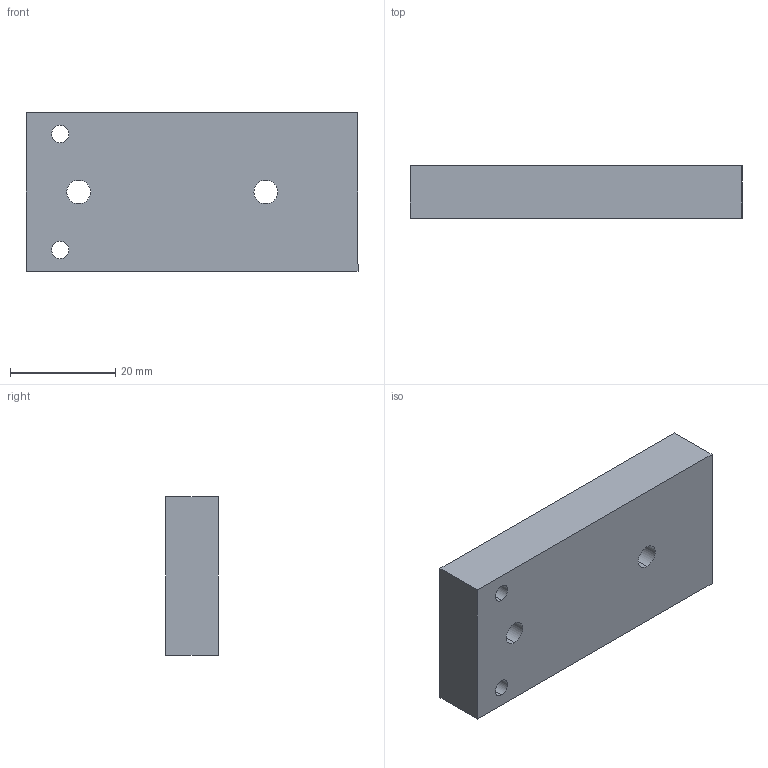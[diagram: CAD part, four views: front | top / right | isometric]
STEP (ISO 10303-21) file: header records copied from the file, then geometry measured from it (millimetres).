
FILE_DESCRIPTION (( 'STEP AP203' ), '1' );
FILE_NAME ('084.604.002.STEP', '2015-02-10T16:05:43', ( '' ), ( '' ), 'SwSTEP 2.0', 'SolidWorks 2012', '' );
FILE_SCHEMA (( 'CONFIG_CONTROL_DESIGN' ));
Length unit declared in the file: millimetre
Products named in the file (1): 084.604.002
Bounding box: 63 x 10 x 30 mm (x, y, z)
Volume: 18295.2 mm3; surface area: 6007.3 mm2
Topology: 1 solids, 1 shells, 18 faces, 44 edges, 28 vertices
Faces by surface type: cylinder 8, plane 6, cone 4
Entity records: 629 total; most frequent: DIRECTION 102, CARTESIAN_POINT 91, ORIENTED_EDGE 88, EDGE_CURVE 44, AXIS2_PLACEMENT_3D 39, VERTEX_POINT 28, EDGE_LOOP 26, VECTOR 24
